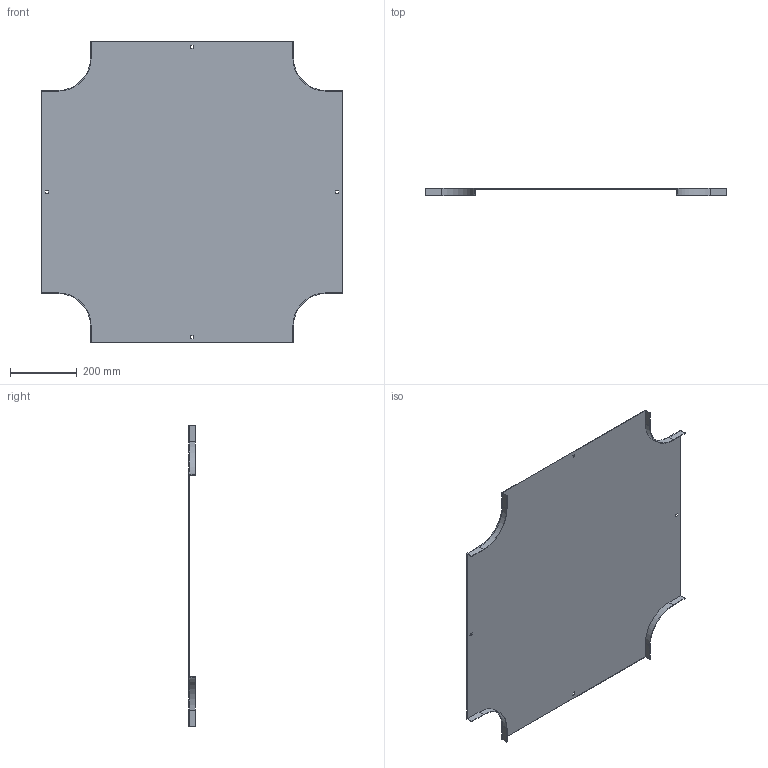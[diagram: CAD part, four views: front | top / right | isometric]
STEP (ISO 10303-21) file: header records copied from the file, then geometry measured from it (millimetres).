
FILE_DESCRIPTION (( 'STEP AP214' ), '1' );
FILE_NAME ('17N1R600.step', '2025-02-21T09:53:03', ( '' ), ( '' ), 'SwSTEP 2.0', 'SolidWorks 2023', '' );
FILE_SCHEMA (( 'AUTOMOTIVE_DESIGN' ));
Length unit declared in the file: millimetre
Products named in the file (1): 17N1R600
Bounding box: 904 x 20 x 904 mm (x, y, z)
Volume: 1134057.3 mm3; surface area: 1517654.7 mm2
Topology: 1 solids, 1 shells, 50 faces, 144 edges, 96 vertices
Faces by surface type: plane 42, cylinder 8
Entity records: 1663 total; most frequent: CARTESIAN_POINT 291, ORIENTED_EDGE 288, DIRECTION 262, EDGE_CURVE 144, VECTOR 128, LINE 128, VERTEX_POINT 96, AXIS2_PLACEMENT_3D 67
